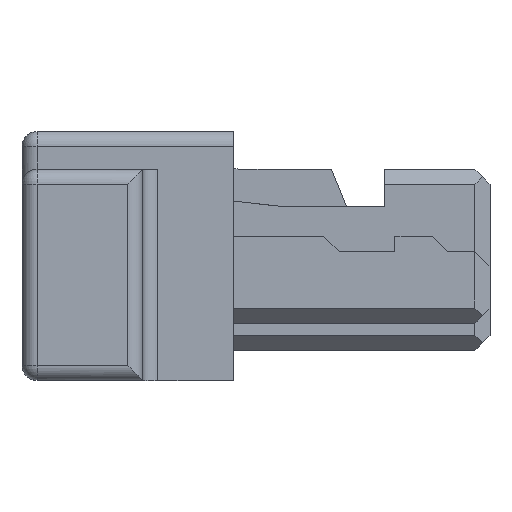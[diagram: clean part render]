
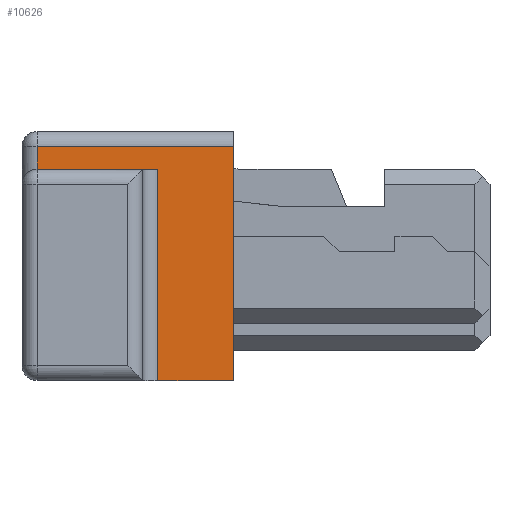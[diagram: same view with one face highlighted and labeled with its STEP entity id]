
A CAD part, front view. The second image highlights one B-rep face of the part: STEP entity #10626.
In plain terms, the highlighted planar face has unit normal (0, -1, 0).
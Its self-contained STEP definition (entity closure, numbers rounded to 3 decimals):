
#516=DIRECTION('',(0.,0.,1.));
#517=VECTOR('',#516,1.55);
#518=CARTESIAN_POINT('',(1.4,-1.6,-1.65));
#519=LINE('',#518,#517);
#579=DIRECTION('',(1.,0.,0.));
#580=VECTOR('',#579,0.5);
#581=CARTESIAN_POINT('',(0.9,-1.6,-1.65));
#582=LINE('',#581,#580);
#655=DIRECTION('',(0.,0.,1.));
#656=VECTOR('',#655,0.15);
#657=CARTESIAN_POINT('',(0.1,-1.6,-0.25));
#658=LINE('',#657,#656);
#663=DIRECTION('',(-1.,0.,0.));
#664=VECTOR('',#663,1.3);
#665=CARTESIAN_POINT('',(1.4,-1.6,-0.1));
#666=LINE('',#665,#664);
#686=DIRECTION('',(0.,0.,-1.));
#687=VECTOR('',#686,1.4);
#688=CARTESIAN_POINT('',(0.9,-1.6,-0.25));
#689=LINE('',#688,#687);
#768=DIRECTION('',(1.,0.,0.));
#769=VECTOR('',#768,0.8);
#770=CARTESIAN_POINT('',(0.1,-1.6,-0.25));
#771=LINE('',#770,#769);
#8964=CARTESIAN_POINT('',(0.1,-1.6,-0.25));
#8965=VERTEX_POINT('',#8964);
#8968=CARTESIAN_POINT('',(0.1,-1.6,-0.1));
#8969=VERTEX_POINT('',#8968);
#8972=CARTESIAN_POINT('',(1.4,-1.6,-1.65));
#8973=CARTESIAN_POINT('',(1.4,-1.6,-0.1));
#8974=VERTEX_POINT('',#8972);
#8975=VERTEX_POINT('',#8973);
#9009=CARTESIAN_POINT('',(0.9,-1.6,-1.65));
#9011=VERTEX_POINT('',#9009);
#9022=CARTESIAN_POINT('',(0.9,-1.6,-0.25));
#9023=VERTEX_POINT('',#9022);
#10610=CARTESIAN_POINT('',(0.75,-1.6,-0.875));
#10611=DIRECTION('',(0.,1.,0.));
#10612=DIRECTION('',(-1.,0.,0.));
#10613=AXIS2_PLACEMENT_3D('',#10610,#10611,#10612);
#10614=PLANE('',#10613);
#10615=ORIENTED_EDGE('',*,*,#10601,.T.);
#10617=ORIENTED_EDGE('',*,*,#10616,.F.);
#10618=ORIENTED_EDGE('',*,*,#10355,.F.);
#10619=ORIENTED_EDGE('',*,*,#10512,.F.);
#10621=ORIENTED_EDGE('',*,*,#10620,.F.);
#10623=ORIENTED_EDGE('',*,*,#10622,.F.);
#10624=EDGE_LOOP('',(#10615,#10617,#10618,#10619,#10621,#10623));
#10625=FACE_OUTER_BOUND('',#10624,.F.);
#10355=EDGE_CURVE('',#8974,#8975,#519,.T.);
#10512=EDGE_CURVE('',#9011,#8974,#582,.T.);
#10601=EDGE_CURVE('',#8965,#8969,#658,.T.);
#10616=EDGE_CURVE('',#8975,#8969,#666,.T.);
#10620=EDGE_CURVE('',#9023,#9011,#689,.T.);
#10622=EDGE_CURVE('',#8965,#9023,#771,.T.);
#10626=ADVANCED_FACE('',(#10625),#10614,.F.);
